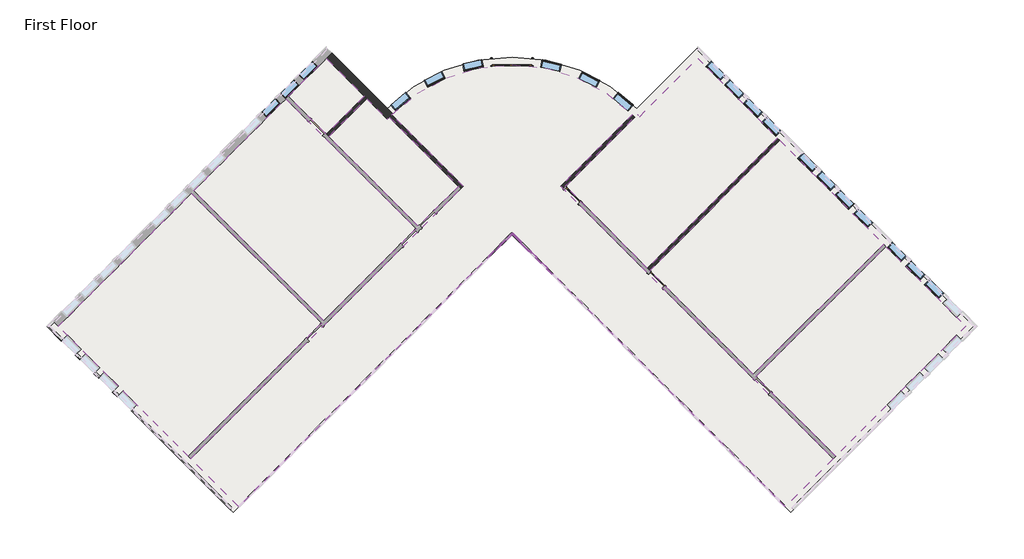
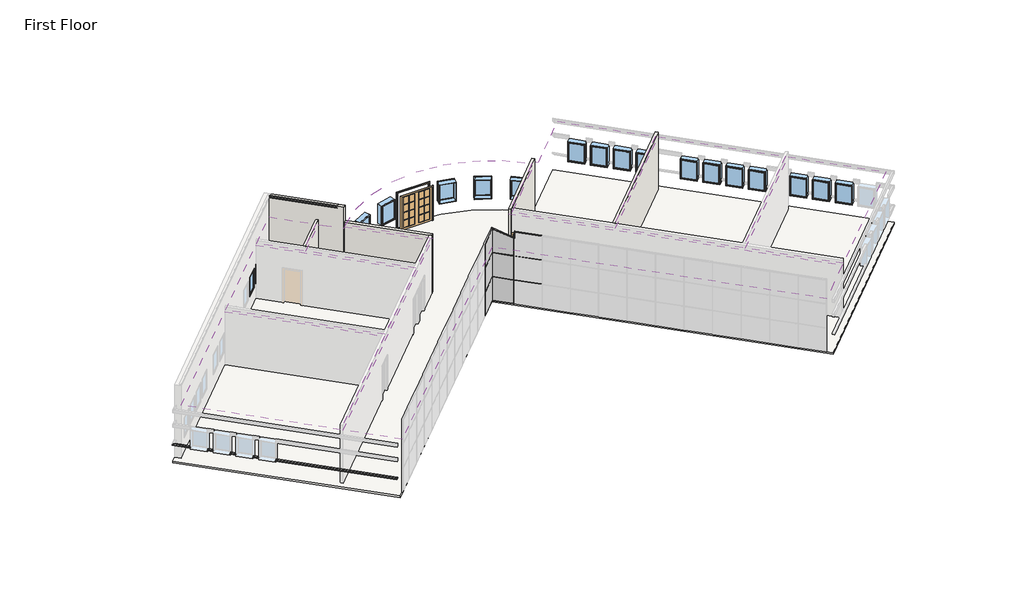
# One storey, part 4 of 5: 20 windows, 19 members, 8 coverings, 6 plates, 5 walls, 3 doors, 1 proxy, 1 slab.
"""IFC4 building model written with IfcOpenShell, lengths in millimetres."""

from ifc_helpers import new_model, si_unit, point, frame, frame_2d, origin, origin_with_axes, place, context, project, spatial, polyline, circle_curve, ellipse_curve, trimmed, segment, composite_curve, outline, extrude, faceted_brep, transform, mapped, element, save
from ifc_brep_helpers import plane_surface, cylinder_surface, revolved_surface, advanced_brep
from components import door_0a477ef8, door_5f5b55da, member_155beb68, member_42be4715, member_b8a5b5c0, member_bd80eb51, member_a3731390, member_b87a50da, member_beb33b19, member_76f0c52a, member_6675e4ca, member_9574b3de, member_b73a8a31, member_4ed907bf, system_panel_glazed_f8555db4, system_panel_glazed_d4009c89, system_panel_glazed_b4114ee2, system_panel_glazed_dc791129, system_panel_solid_99f695d0, system_panel_solid_3576f13f, window_15c49d37, window_0e2fc6ce

model = new_model("IFC4")

# Units and contexts
model_context = context("Model", 3, world=origin())
ifc_project = project(units=[si_unit("LENGTHUNIT", "METRE", prefix="MILLI")], contexts=[model_context])

# Site, building, storey
site = spatial("IfcSite", under=ifc_project)
building = spatial("IfcBuilding", under=site)
storey = spatial("IfcBuildingStorey", under=building, Name="First Floor", Elevation=0.0)

# Proxy
placement = place(None, origin())
element("IfcBuildingElementProxy", 1, Name="Wall Sweeps", at=placement, inside=storey, context=model_context, shape_type="Brep", body=[
    faceted_brep([(-15859.0913754, -9789.3274758, 1085.85), (-15924.1982323, -9854.4343326, 1085.85), (-15948.8939367, -9879.130037, 1041.4), (-15948.8939367, -9879.130037, 1016.0), (-15924.1982323, -9854.4343326, 1016.0), (-15859.0913754, -9789.3274758, 1016.0), (-20459.2275735, -5189.1912777, 1085.85), (-20459.2275735, -5189.1912777, 1016.0), (-20524.3344303, -5254.2981346, 1016.0), (-20549.0301347, -5278.993839, 1016.0), (-20549.0301347, -5278.993839, 1041.4), (-20524.3344303, -5254.2981346, 1085.85)], [[[0, 1, 2, 3, 4, 5]], [[6, 7, 8, 9, 10, 11]], [[1, 0, 6, 11]], [[2, 1, 11, 10]], [[3, 2, 10, 9]], [[5, 4, 3, 9, 8, 7]], [[0, 5, 7, 6]]]),
    faceted_brep([(-21105.8060142, -4542.612837, 1085.85), (-21170.9128711, -4607.7196939, 1085.85), (-21195.6085754, -4632.4153982, 1041.4), (-21195.6085754, -4632.4153982, 1016.0), (-21170.9128711, -4607.7196939, 1016.0), (-21105.8060142, -4542.612837, 1016.0), (-21321.3321611, -4327.0866901, 1085.85), (-21321.3321611, -4327.0866901, 1016.0), (-21386.439018, -4392.193547, 1016.0), (-21411.1347223, -4416.8892513, 1016.0), (-21411.1347223, -4416.8892513, 1041.4), (-21386.439018, -4392.193547, 1085.85)], [[[0, 1, 2, 3, 4, 5]], [[6, 7, 8, 9, 10, 11]], [[1, 0, 6, 11]], [[2, 1, 11, 10]], [[3, 2, 10, 9]], [[5, 4, 3, 9, 8, 7]], [[0, 5, 7, 6]]]),
    faceted_brep([(-21967.9106018, -3680.5082494, 1085.85), (-22033.0174587, -3745.6151063, 1085.85), (-22057.713163, -3770.3108106, 1041.4), (-22057.713163, -3770.3108106, 1016.0), (-22033.0174587, -3745.6151063, 1016.0), (-21967.9106018, -3680.5082494, 1016.0), (-22183.4367487, -3464.9821025, 1085.85), (-22183.4367487, -3464.9821025, 1016.0), (-22248.5436056, -3530.0889594, 1016.0), (-22273.2393099, -3554.7846637, 1016.0), (-22273.2393099, -3554.7846637, 1041.4), (-22248.5436056, -3530.0889594, 1085.85)], [[[0, 1, 2, 3, 4, 5]], [[6, 7, 8, 9, 10, 11]], [[1, 0, 6, 11]], [[2, 1, 11, 10]], [[3, 2, 10, 9]], [[5, 4, 3, 9, 8, 7]], [[0, 5, 7, 6]]]),
    faceted_brep([(-22830.0151894, -2818.4036618, 1085.85), (-22895.1220463, -2883.5105187, 1085.85), (-22919.8177506, -2908.206223, 1041.4), (-22919.8177506, -2908.206223, 1016.0), (-22895.1220463, -2883.5105187, 1016.0), (-22830.0151894, -2818.4036618, 1016.0), (-23045.5413363, -2602.8775149, 1085.85), (-23045.5413363, -2602.8775149, 1016.0), (-23110.6481932, -2667.9843718, 1016.0), (-23135.3438975, -2692.6800761, 1016.0), (-23135.3438975, -2692.6800761, 1041.4), (-23110.6481932, -2667.9843718, 1085.85)], [[[0, 1, 2, 3, 4, 5]], [[6, 7, 8, 9, 10, 11]], [[1, 0, 6, 11]], [[2, 1, 11, 10]], [[3, 2, 10, 9]], [[5, 4, 3, 9, 8, 7]], [[0, 5, 7, 6]]]),
    faceted_brep([(-23692.119777, -1956.2990742, 1085.85), (-23757.2266339, -2021.405931, 1085.85), (-23781.9223383, -2046.1016354, 1041.4), (-23781.9223383, -2046.1016354, 1016.0), (-23757.2266339, -2021.405931, 1016.0), (-23692.119777, -1956.2990742, 1016.0), (-24290.4293411, -1357.9895101, 1085.85), (-24290.4293411, -1357.9895101, 1016.0), (-24470.0344635, -1357.9895101, 1016.0), (-24470.0344635, -1357.9895101, 1041.4), (-24420.6430549, -1357.9895101, 1085.85)], [[[0, 1, 2, 3, 4, 5]], [[6, 7, 8, 9, 10]], [[1, 0, 6, 10]], [[2, 1, 10, 9]], [[3, 2, 9, 8]], [[5, 4, 3, 8, 7]], [[0, 5, 7, 6]]]),
])

# Coverings
element("IfcCovering", 2, ObjectType="2' x 2' ACT System", at=placement, inside=storey, context=model_context, shape_type="SweptSolid", body=[
    extrude(outline(polyline([(-11706.7276692, -1216.4326939), (-17885.2616628, -7394.9666875), (-23922.2388402, -1357.9895101), (-17743.7048466, 4820.5444835), (-11706.7276692, -1216.4326939)])), frame((0.0, 0.0, 3352.8), z_axis=(0.0, 0.0, 1.0), x_axis=(1.0, 0.0, 0.0)), (0.0, 0.0, 1.0), 57.15),
])
element("IfcCovering", 3, ObjectType="2' x 2' ACT System", at=placement, inside=storey, context=model_context, shape_type="SweptSolid", body=[
    extrude(outline(polyline([(-17633.6967091, 4930.552621), (-13359.2125777, 9205.0367523), (-7322.2354004, 3168.0595749), (-11596.7195317, -1106.4245564), (-17633.6967091, 4930.552621)])), frame((0.0, 0.0, 3352.8), z_axis=(0.0, 0.0, 1.0), x_axis=(1.0, 0.0, 0.0)), (0.0, 0.0, 1.0), 57.15),
])
element("IfcCovering", 4, ObjectType="2' x 2' ACT System", at=placement, inside=storey, context=model_context, shape_type="SweptSolid", body=[
    extrude(outline(polyline([(-13249.2044403, 9315.0448898), (-11489.0742405, 11075.1750895), (-9728.9440408, 9315.0448898), (-11489.0742405, 7554.9146901), (-13249.2044403, 9315.0448898)])), frame((0.0, 0.0, 3352.8), z_axis=(0.0, 0.0, 1.0), x_axis=(1.0, 0.0, 0.0)), (0.0, 0.0, 1.0), 57.15),
])
element("IfcCovering", 5, ObjectType="2' x 2' ACT System", at=placement, inside=storey, context=model_context, shape_type="SweptSolid", body=[
    extrude(outline(composite_curve([segment(polyline([(-11379.066103, 7444.9065526), (-9618.9359033, 9205.0367523), (-8658.0122729, 8244.1131219)]), True, "CONTINUOUS"), segment(trimmed(circle_curve(frame_2d((-2868.0283643, 2903.1420194)), 7877.175), [point((-8658.0122729, 8244.1131219))], [point((-8557.7157352, 8350.8336041))], False, "CARTESIAN"), True, "CONTINUOUS"), segment(polyline([(-8557.7157352, 8350.8336041), (-5348.5885532, 5141.7064221), (-7212.2272629, 3278.0677124), (-11379.066103, 7444.9065526)]), True, "CONTINUOUS")], self_intersect=False)), frame((0.0, 0.0, 3352.8), z_axis=(0.0, 0.0, 1.0), x_axis=(1.0, 0.0, 0.0)), (0.0, 0.0, 1.0), 57.15),
])
element("IfcCovering", 6, ObjectType="2' x 2' ACT System", at=placement, inside=storey, context=model_context, shape_type="SweptSolid", body=[
    extrude(outline(composite_curve([segment(polyline([(-607.4844504, 5141.7064221), (12039.1967967, -7504.974825), (9814.3383427, -9729.833279), (-2868.0283643, 2952.533428), (-15550.3950713, -9729.833279), (-17775.2535253, -7504.974825), (-5128.5722782, 5141.7064221), (-8449.0111375, 8462.1452813)]), True, "CONTINUOUS"), segment(trimmed(circle_curve(frame_2d((-2868.0283643, 2903.1420194)), 7877.175), [point((-8449.0111375, 8462.1452813))], [point((2712.9544089, 8462.1452813))], False, "CARTESIAN"), True, "CONTINUOUS"), segment(polyline([(2712.9544089, 8462.1452813), (-607.4844504, 5141.7064221)]), True, "CONTINUOUS")], self_intersect=False)), frame((0.0, 0.0, 3352.8), z_axis=(0.0, 0.0, 1.0), x_axis=(1.0, 0.0, 0.0)), (0.0, 0.0, 1.0), 57.15),
])
element("IfcCovering", 7, ObjectType="2' x 2' ACT System", at=placement, inside=storey, context=model_context, shape_type="SweptSolid", body=[
    extrude(outline(polyline([(2947.192033, 8476.3666305), (3050.2065213, 8372.3640989), (5753.0175119, 11075.1750895), (9452.8830338, 7375.3095676), (3415.9058564, 1338.3323903), (-387.4681754, 5141.7064221), (2947.192033, 8476.3666305)])), frame((0.0, 0.0, 3352.8), z_axis=(0.0, 0.0, 1.0), x_axis=(1.0, 0.0, 0.0)), (0.0, 0.0, 1.0), 57.15),
])
element("IfcCovering", 8, ObjectType="2' x 2' ACT System", at=placement, inside=storey, context=model_context, shape_type="SweptSolid", body=[
    extrude(outline(polyline([(3525.9139939, 1228.3242528), (9562.8911713, 7265.3014302), (14376.3084522, 2451.8841493), (8339.3312748, -3585.0930281), (3525.9139939, 1228.3242528)])), frame((0.0, 0.0, 3352.8), z_axis=(0.0, 0.0, 1.0), x_axis=(1.0, 0.0, 0.0)), (0.0, 0.0, 1.0), 57.15),
])
element("IfcCovering", 9, ObjectType="2' x 2' ACT System", at=placement, inside=storey, context=model_context, shape_type="SweptSolid", body=[
    extrude(outline(polyline([(8449.3394123, -3695.1011656), (14486.3165897, 2341.8760118), (18186.1821115, -1357.9895101), (12149.2049342, -7394.9666875), (8449.3394123, -3695.1011656)])), frame((0.0, 0.0, 3352.8), z_axis=(0.0, 0.0, 1.0), x_axis=(1.0, 0.0, 0.0)), (0.0, 0.0, 1.0), 57.15),
])

# Doors
door_shape = door_0a477ef8(model_context)
element("IfcDoor", 10, ObjectType="Double-Glass 2 : 72\" x 84\"", at=placement, inside=storey, context=model_context, shape_type="MappedRepresentation", body=[
    mapped(door_shape, transform((-2868.7603243, 10905.5717204, 0.0), x_axis=(-0.9999999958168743, -9.146721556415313e-05, 0.0), y_axis=(9.146721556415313e-05, -0.9999999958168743, 0.0), z_axis=(0.0, 0.0, 1.0))),
])
door_2_shape = door_5f5b55da(model_context)
element("IfcDoor", 11, ObjectType="Single-Glass 1 : 36\" x 84\"", at=placement, inside=storey, context=model_context, shape_type="MappedRepresentation", body=[
    mapped(door_2_shape, transform((-66.4240191, 4710.6541283, 0.0), x_axis=(-0.7071067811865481, 0.7071067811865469, 0.0), y_axis=(-0.7071067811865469, -0.7071067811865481, 0.0), z_axis=(0.0, 0.0, 1.0))),
])
element("IfcDoor", 12, ObjectType="Single-Glass 1 : 36\" x 84\"", at=placement, inside=storey, context=model_context, shape_type="MappedRepresentation", body=[
    mapped(door_2_shape, transform((3846.9581502, 797.271959, 0.0), x_axis=(-0.7071067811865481, 0.7071067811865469, 0.0), y_axis=(-0.7071067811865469, -0.7071067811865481, 0.0), z_axis=(0.0, 0.0, 1.0))),
])

# Members
member_shape = member_155beb68(model_context)
element("IfcMember", 13, ObjectType="Rectangular Mullion : 1.5\" x 2.5\" Rectangular", at=placement, inside=storey, context=model_context, shape_type="MappedRepresentation", body=[
    mapped(member_shape, transform((-2039.5997371, 2124.1048009, 1524.0), x_axis=(-0.7071067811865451, 0.70710678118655, 0.0), y_axis=(0.70710678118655, 0.7071067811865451, 0.0), z_axis=(0.0, 0.0, -1.0))),
])
element("IfcMember", 14, ObjectType="Rectangular Mullion : 1.5\" x 2.5\" Rectangular", at=placement, inside=storey, context=model_context, shape_type="MappedRepresentation", body=[
    mapped(member_shape, transform((-2039.5997371, 2124.1048009, 0.0), x_axis=(-0.7071067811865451, 0.70710678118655, 0.0), y_axis=(0.70710678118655, 0.7071067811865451, 0.0), z_axis=(0.0, 0.0, -1.0))),
])
member_2_shape = member_42be4715(model_context)
element("IfcMember", 15, ObjectType="Rectangular Mullion : 1.5\" x 2.5\" Rectangular", at=placement, inside=storey, context=model_context, shape_type="MappedRepresentation", body=[
    mapped(member_2_shape, transform((-2026.129353, 2110.6344167, 3048.0), x_axis=(0.0, 0.0, 1.0), y_axis=(0.7071067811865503, 0.7071067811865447, 0.0), z_axis=(-0.7071067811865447, 0.7071067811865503, 0.0))),
])
element("IfcMember", 16, ObjectType="Rectangular Mullion : 1.5\" x 2.5\" Rectangular", at=placement, inside=storey, context=model_context, shape_type="MappedRepresentation", body=[
    mapped(member_2_shape, transform((-2026.129353, 2110.6344167, 1524.0), x_axis=(0.0, 0.0, 1.0), y_axis=(0.7071067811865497, 0.7071067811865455, 0.0), z_axis=(-0.7071067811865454, 0.7071067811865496, 0.0))),
])
member_3_shape = member_b8a5b5c0(model_context)
element("IfcMember", 17, ObjectType="Rectangular Mullion : 1.5\" x 2.5\" Rectangular", at=placement, inside=storey, context=model_context, shape_type="MappedRepresentation", body=[
    mapped(member_3_shape, transform((-2894.9691327, 2925.5926597, 0.0), x_axis=(0.0, 0.0, -1.0), y_axis=(-0.7071067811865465, 0.7071067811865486, 0.0), z_axis=(0.7071067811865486, 0.7071067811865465, 0.0))),
])
member_4_shape = member_bd80eb51(model_context)
element("IfcMember", 18, ObjectType="Rectangular Mullion : 1.5\" x 2.5\" Rectangular", at=placement, inside=storey, context=model_context, shape_type="MappedRepresentation", body=[
    mapped(member_4_shape, transform((-2053.0701213, 2137.575185, 0.0), x_axis=(0.0, 0.0, -1.0), y_axis=(0.7071067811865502, 0.7071067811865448, 0.0), z_axis=(0.7071067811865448, -0.7071067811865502, 0.0))),
])
member_5_shape = member_a3731390(model_context)
element("IfcMember", 19, ObjectType="Rectangular Mullion : 1.5\" x 2.5\" Rectangular", at=placement, inside=storey, context=model_context, shape_type="MappedRepresentation", body=[
    mapped(member_5_shape, transform((-2841.0875959, 2925.5926597, 3048.0), x_axis=(0.0, 0.0, 1.0), y_axis=(0.7071067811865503, 0.7071067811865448, 0.0), z_axis=(-0.7071067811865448, 0.7071067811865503, 0.0))),
])
element("IfcMember", 20, ObjectType="Rectangular Mullion : 1.5\" x 2.5\" Rectangular", at=placement, inside=storey, context=model_context, shape_type="MappedRepresentation", body=[
    mapped(member_5_shape, transform((-2841.0875959, 2925.5926597, 1524.0), x_axis=(0.0, 0.0, 1.0), y_axis=(0.7071067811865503, 0.7071067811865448, 0.0), z_axis=(-0.7071067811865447, 0.7071067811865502, 0.0))),
])
member_6_shape = member_b87a50da(model_context)
element("IfcMember", 21, ObjectType="Rectangular Mullion : 1.5\" x 2.5\" Rectangular", at=placement, inside=storey, context=model_context, shape_type="MappedRepresentation", body=[
    mapped(member_6_shape, transform((-2868.0283643, 2952.533428, 1524.0), x_axis=(0.7071067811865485, 0.7071067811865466, 0.0), y_axis=(-0.7071067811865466, 0.7071067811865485, 0.0), z_axis=(0.0, 0.0, 1.0))),
])
element("IfcMember", 22, ObjectType="Rectangular Mullion : 1.5\" x 2.5\" Rectangular", at=placement, inside=storey, context=model_context, shape_type="MappedRepresentation", body=[
    mapped(member_6_shape, transform((-2868.0283643, 2952.533428, 3048.0), x_axis=(0.7071067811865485, 0.7071067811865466, 0.0), y_axis=(-0.7071067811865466, 0.7071067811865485, 0.0), z_axis=(0.0, 0.0, 1.0))),
])
element("IfcMember", 23, ObjectType="Rectangular Mullion : 1.5\" x 2.5\" Rectangular", at=placement, inside=storey, context=model_context, shape_type="MappedRepresentation", body=[
    mapped(member_6_shape, transform((-2868.0283643, 2952.533428, 4572.0), x_axis=(0.7071067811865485, 0.7071067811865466, 0.0), y_axis=(-0.7071067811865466, 0.7071067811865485, 0.0), z_axis=(0.0, 0.0, 1.0))),
])
element("IfcMember", 24, ObjectType="Rectangular Mullion : 1.5\" x 2.5\" Rectangular", at=placement, inside=storey, context=model_context, shape_type="MappedRepresentation", body=[
    mapped(member_6_shape, transform((-2868.0283643, 2952.533428, 0.0), x_axis=(-0.7071067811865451, 0.70710678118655, 0.0), y_axis=(0.70710678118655, 0.7071067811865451, 0.0), z_axis=(0.0, 0.0, -1.0))),
])
element("IfcMember", 25, ObjectType="Rectangular Mullion : 1.5\" x 2.5\" Rectangular", at=placement, inside=storey, context=model_context, shape_type="MappedRepresentation", body=[
    mapped(member_6_shape, transform((-2868.0283643, 2952.533428, 1524.0), x_axis=(-0.7071067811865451, 0.70710678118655, 0.0), y_axis=(0.70710678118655, 0.7071067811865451, 0.0), z_axis=(0.0, 0.0, -1.0))),
])
member_7_shape = member_beb33b19(model_context)
element("IfcMember", 26, ObjectType="Rectangular Mullion : 1.5\" x 2.5\" Rectangular", at=placement, inside=storey, context=model_context, shape_type="MappedRepresentation", body=[
    mapped(member_7_shape, transform((-2039.5997371, 2124.1048009, 4181.475), x_axis=(0.22360679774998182, -0.22360679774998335, 0.9486832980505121), y_axis=(0.7071067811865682, 0.7071067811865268, 0.0), z_axis=(-0.670820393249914, 0.6708203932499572, 0.316227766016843))),
])
member_8_shape = member_76f0c52a(model_context)
element("IfcMember", 27, ObjectType="Rectangular Mullion : 1.5\" x 2.5\" Rectangular", at=placement, inside=storey, context=model_context, shape_type="MappedRepresentation", body=[
    mapped(member_8_shape, transform((-2868.0283643, 2952.533428, 4572.0), x_axis=(0.22360679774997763, -0.22360679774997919, 0.9486832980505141), y_axis=(0.7071067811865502, 0.7071067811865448, 0.0), z_axis=(-0.6708203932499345, 0.6708203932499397, 0.3162277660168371))),
])
member_9_shape = member_6675e4ca(model_context)
element("IfcMember", 28, ObjectType="Rectangular Mullion : 1.5\" x 2.5\" Rectangular", at=placement, inside=storey, context=model_context, shape_type="MappedRepresentation", body=[
    mapped(member_9_shape, transform((-2005.9237767, 2090.4288404, 4165.6), x_axis=(-0.7071067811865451, 0.70710678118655, 0.0), y_axis=(0.70710678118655, 0.7071067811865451, 0.0), z_axis=(0.0, 0.0, -1.0))),
])
member_10_shape = member_9574b3de(model_context)
element("IfcMember", 29, ObjectType="Rectangular Mullion : 1.5\" x 2.5\" Rectangular", at=placement, inside=storey, context=model_context, shape_type="MappedRepresentation", body=[
    mapped(member_10_shape, transform((-1978.9830083, 2063.488072, 4572.0), x_axis=(0.0, 0.0, 1.0), y_axis=(0.707106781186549, 0.7071067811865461, 0.0), z_axis=(-0.707106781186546, 0.7071067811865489, 0.0))),
])
member_11_shape = member_b73a8a31(model_context)
element("IfcMember", 30, ObjectType="Rectangular Mullion : 1.5\" x 2.5\" Rectangular", at=placement, inside=storey, context=model_context, shape_type="MappedRepresentation", body=[
    mapped(member_11_shape, transform((-2039.5997371, 2124.1048009, 3048.0), x_axis=(-0.7071067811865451, 0.70710678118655, 0.0), y_axis=(0.70710678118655, 0.7071067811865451, 0.0), z_axis=(0.0, 0.0, -1.0))),
])
member_12_shape = member_4ed907bf(model_context)
element("IfcMember", 31, ObjectType="Rectangular Mullion : 1.5\" x 2.5\" Rectangular", at=placement, inside=storey, context=model_context, shape_type="MappedRepresentation", body=[
    mapped(member_12_shape, transform((-2868.0283643, 2952.533428, 3048.0), x_axis=(-0.7071067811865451, 0.70710678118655, 0.0), y_axis=(0.70710678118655, 0.7071067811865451, 0.0), z_axis=(0.0, 0.0, -1.0))),
])

# Plates
system_panel_glazed_shape = system_panel_glazed_f8555db4(model_context)
element("IfcPlate", 32, ObjectType="System Panel : Glazed", at=placement, inside=storey, context=model_context, shape_type="MappedRepresentation", body=[
    mapped(system_panel_glazed_shape, transform((-3413.5789237, 2406.9828687, 38.1), x_axis=(-0.7071067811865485, -0.7071067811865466, 0.0), y_axis=(0.7071067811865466, -0.7071067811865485, 0.0), z_axis=(0.0, 0.0, 1.0))),
])
system_panel_glazed_2_shape = system_panel_glazed_d4009c89(model_context)
element("IfcPlate", 33, ObjectType="System Panel : Glazed", at=placement, inside=storey, context=model_context, shape_type="MappedRepresentation", body=[
    mapped(system_panel_glazed_2_shape, transform((-3413.5789237, 2406.9828687, 1543.05), x_axis=(-0.7071067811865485, -0.7071067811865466, 0.0), y_axis=(0.7071067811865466, -0.7071067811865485, 0.0), z_axis=(0.0, 0.0, 1.0))),
])
system_panel_glazed_3_shape = system_panel_glazed_b4114ee2(model_context)
element("IfcPlate", 34, ObjectType="System Panel : Glazed", at=placement, inside=storey, context=model_context, shape_type="MappedRepresentation", body=[
    mapped(system_panel_glazed_3_shape, transform((-2447.0788586, 2531.5839223, 38.1), x_axis=(-0.7071067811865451, 0.70710678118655, 0.0), y_axis=(-0.70710678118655, -0.7071067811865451, 0.0), z_axis=(0.0, 0.0, 1.0))),
])
system_panel_glazed_4_shape = system_panel_glazed_dc791129(model_context)
element("IfcPlate", 35, ObjectType="System Panel : Glazed", at=placement, inside=storey, context=model_context, shape_type="MappedRepresentation", body=[
    mapped(system_panel_glazed_4_shape, transform((-2447.0788586, 2531.5839223, 1543.05), x_axis=(-0.7071067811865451, 0.70710678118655, 0.0), y_axis=(-0.70710678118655, -0.7071067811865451, 0.0), z_axis=(0.0, 0.0, 1.0))),
])
system_panel_solid_shape = system_panel_solid_99f695d0(model_context)
element("IfcPlate", 36, ObjectType="System Panel : Solid", at=placement, inside=storey, context=model_context, shape_type="MappedRepresentation", body=[
    mapped(system_panel_solid_shape, transform((-3413.5789237, 2406.9828687, 3067.05), x_axis=(-0.7071067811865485, -0.7071067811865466, 0.0), y_axis=(0.7071067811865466, -0.7071067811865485, 0.0), z_axis=(0.0, 0.0, 1.0))),
])
system_panel_solid_2_shape = system_panel_solid_3576f13f(model_context)
element("IfcPlate", 37, ObjectType="System Panel : Solid", at=placement, inside=storey, context=model_context, shape_type="MappedRepresentation", body=[
    mapped(system_panel_solid_2_shape, transform((-2447.0788586, 2531.5839223, 3067.05), x_axis=(-0.7071067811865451, 0.70710678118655, 0.0), y_axis=(-0.70710678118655, -0.7071067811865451, 0.0), z_axis=(0.0, 0.0, 1.0))),
])

# Slab
element("IfcSlab", 38, ObjectType="4\" Concrete Slab", at=placement, inside=storey, context=model_context, shape_type="SweptSolid", body=[
    extrude(outline(composite_curve([segment(polyline([(2926.4294954, 8746.9912878), (5753.0175119, 11573.5793042), (18684.5863263, -1357.9895101), (10063.54045, -9979.0353863), (-2868.0283643, 2952.533428), (-15799.5971786, -9979.0353863), (-24420.6430549, -1357.9895101), (-11489.0742405, 11573.5793042), (-8662.486224, 8746.9912878)]), True, "CONTINUOUS"), segment(trimmed(circle_curve(frame_2d((-2868.0283643, 2903.1420194)), 8229.6), [point((-8662.486224, 8746.9912878))], [point((2926.4294954, 8746.9912878))], False, "CARTESIAN"), True, "CONTINUOUS")], self_intersect=False)), frame((0.0, 0.0, -101.6), z_axis=(0.0, 0.0, 1.0), x_axis=(1.0, 0.0, 0.0)), (0.0, 0.0, 1.0), 101.6),
])

# Walls
element("IfcWall", 39, ObjectType="Exterior - Split Face and CMU on Mtl. Stud", at=placement, inside=storey, context=model_context, shape_type="AdvancedBrep", body=[
    advanced_brep(
    [(-11489.0742405, 11075.1750895, 0.0), (-9728.9440408, 9315.0448898, 0.0), (-9618.9359033, 9205.0367523, 0.0), (-8658.0122729, 8244.1131219, 0.0), (-8658.0122729, 8244.1131219, 4689.475), (-11489.0742405, 11075.1750895, 4689.475), (-11489.0742405, 11075.1750895, 4639.3965909), (-8911.6883314, 8497.7891804, 4639.3965909), (-8911.6883314, 8497.7891804, 4572.0), (-11489.0742405, 11075.1750895, 4572.0), (-8413.2817722, 8497.7868359, 4572.0), (-8413.2817722, 8497.7868359, 0.0), (-8662.486224, 8746.9912878, 0.0), (-11239.8721332, 11324.3771969, 0.0), (-11239.8721332, 11324.3771969, 1016.0), (-8662.486224, 8746.9912878, 1016.0), (-8597.3787742, 8681.8838379, 1016.0), (-8597.3787742, 8681.8838379, 1085.85), (-8662.486224, 8746.9912878, 1085.85), (-11239.8721332, 11324.3771969, 1085.85), (-11239.8721332, 11324.3771969, 2133.6), (-8662.486224, 8746.9912878, 2133.6), (-8597.3787742, 8681.8838379, 2133.6), (-8597.3787742, 8681.8838379, 2336.8), (-8662.486224, 8746.9912878, 2336.8), (-11239.8721332, 11324.3771969, 2336.8), (-11239.8721332, 11324.3771969, 3048.0), (-8662.486224, 8746.9912878, 3048.0), (-8597.3787742, 8681.8838379, 3048.0), (-8597.3787742, 8681.8838379, 3251.2), (-8662.486224, 8746.9912878, 3251.2), (-11239.8721332, 11324.3771969, 3251.2), (-11239.8721332, 11324.3771969, 4572.0), (-8662.486224, 8746.9912878, 4572.0), (-8557.713594, 8350.8358404, 0.0), (-8478.2967797, 8432.5881297, 0.0), (-8449.0111375, 8462.1452813, 0.0), (-11304.9789901, 11259.27034, 0.0), (-11304.9789901, 11259.27034, 3251.2), (-11304.9789901, 11259.27034, 3048.0), (-11304.9789901, 11259.27034, 2336.8), (-11304.9789901, 11259.27034, 2133.6), (-11304.9789901, 11259.27034, 1085.85), (-11304.9789901, 11259.27034, 1016.0), (-11413.683542, 11150.5657881, 4653.9354839), (-8836.2976328, 8573.179879, 4653.9354839), (-8662.3967205, 8616.6880705, 1085.85), (-8662.3967205, 8616.6880705, 1016.0), (-8662.3967205, 8616.6880705, 2336.8), (-8662.3967205, 8616.6880705, 2133.6), (-8662.3967205, 8616.6880705, 3251.2), (-8662.3967205, 8616.6880705, 3048.0)],
    [
        (0, 1),
        (1, 2),
        (2, 3),
        (3, 4),
        (4, 5),
        (5, 6),
        (6, 7),
        (7, 8),
        (8, 9),
        (9, 0),
        (10, 11),
        (11, 12),
        (12, 13),
        (13, 14),
        (14, 15),
        (15, 16),
        (16, 17),
        (17, 18),
        (18, 19),
        (19, 20),
        (20, 21),
        (21, 22),
        (22, 23),
        (23, 24),
        (24, 25),
        (25, 26),
        (26, 27),
        (27, 28),
        (28, 29),
        (29, 30),
        (30, 31),
        (31, 32),
        (32, 33),
        (33, 10),
        (3, 34, circle_curve(frame((-2868.0283643, 2903.1420194, 0.0), z_axis=(0.0, 0.0, -1.0), x_axis=(1.0, 0.0, 0.0)), 7877.175)),
        (34, 35, circle_curve(frame((-2868.0283643, 2903.1420194, 0.0), z_axis=(0.0, 0.0, -1.0), x_axis=(1.0, 0.0, 0.0)), 7877.175)),
        (35, 36, circle_curve(frame((-2868.0283643, 2903.1420194, 0.0), z_axis=(0.0, 0.0, -1.0), x_axis=(1.0, 0.0, 0.0)), 7877.175)),
        (36, 11, circle_curve(frame((-2868.0283643, 2903.1420194, 0.0), z_axis=(0.0, 0.0, -1.0), x_axis=(1.0, 0.0, 0.0)), 7877.175)),
        (10, 4, ellipse_curve(frame((-2868.0283643, 2903.1420194, 4583.6416667), z_axis=(0.2236067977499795, 0.22360679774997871, 0.9486832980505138), x_axis=(0.6708203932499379, 0.6708203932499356, -0.31622776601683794)), 8303.2715092, 7877.175)),
        (37, 0),
        (9, 32),
        (31, 38),
        (38, 39),
        (39, 26),
        (25, 40),
        (40, 41),
        (41, 20),
        (19, 42),
        (42, 43),
        (43, 14),
        (13, 37),
        (5, 44),
        (44, 6),
        (33, 45),
        (45, 44),
        (37, 35),
        (46, 47),
        (47, 43),
        (42, 46),
        (17, 46, circle_curve(frame((-2868.0283643, 2903.1420194, 1085.85), z_axis=(0.0, 0.0, 1.0), x_axis=(-0.7040995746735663, 0.7101012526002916, 0.0)), 8137.525)),
        (47, 16, circle_curve(frame((-2868.0283643, 2903.1420194, 1016.0), z_axis=(0.0, 0.0, -1.0), x_axis=(-0.7040995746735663, 0.7101012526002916, 0.0)), 8137.525)),
        (48, 49),
        (49, 41),
        (40, 48),
        (49, 22, circle_curve(frame((-2868.0283643, 2903.1420194, 2133.6), z_axis=(0.0, 0.0, -1.0), x_axis=(-0.7120553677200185, 0.70212331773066, 0.0)), 8137.525)),
        (48, 23, circle_curve(frame((-2868.0283643, 2903.1420194, 2336.8), z_axis=(0.0, 0.0, -1.0), x_axis=(-0.7120553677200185, 0.70212331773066, 0.0)), 8137.525)),
        (50, 51),
        (51, 39),
        (38, 50),
        (51, 28, circle_curve(frame((-2868.0283643, 2903.1420194, 3048.0), z_axis=(0.0, 0.0, -1.0), x_axis=(-0.7120553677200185, 0.70212331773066, 0.0)), 8137.525)),
        (50, 29, circle_curve(frame((-2868.0283643, 2903.1420194, 3251.2), z_axis=(0.0, 0.0, -1.0), x_axis=(-0.7120553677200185, 0.70212331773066, 0.0)), 8137.525)),
        (8, 33),
        (7, 45),
    ],
    [
        plane_surface(frame((-11738.2763479, 11324.3771969, 0.0), z_axis=(-0.7071067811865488, -0.7071067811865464, 0.0), x_axis=(0.7071067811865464, -0.7071067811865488, 0.0))),
        plane_surface(frame((-11489.0742405, 11573.5793042, 0.0), z_axis=(0.7071067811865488, 0.7071067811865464, 0.0), x_axis=(-0.7071067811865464, 0.7071067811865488, 0.0))),
        revolved_surface(polyline([(5009.146635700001, 2903.1420194, 0.0), (5009.146635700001, 2903.1420194, 7209.366666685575)]), (-2868.0283643, 2903.1420194, 0.0), (0.0, 0.0, -1.0)),
        plane_surface(frame((-24171.4409475, -1607.1916175, 0.0), z_axis=(-0.7071067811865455, 0.7071067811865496, 0.0), x_axis=(0.7071067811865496, 0.7071067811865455, 0.0))),
        plane_surface(frame((-1143.8191891, 2952.533428, 4165.6), z_axis=(0.2236067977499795, 0.22360679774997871, 0.9486832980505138), x_axis=(-0.7071067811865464, 0.7071067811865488, 0.0))),
        plane_surface(frame((-11613.6752942, 11199.7761432, 0.0), z_axis=(0.0, 0.0, -1.0000000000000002), x_axis=(0.7071067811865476, 0.7071067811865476, 0.0))),
        plane_surface(frame((0.0, 0.0, 0.0), z_axis=(0.0, 0.0, -1.0), x_axis=(1.0, 0.0, 0.0))),
        plane_surface(frame((-11489.0742405, 11443.3655905, 1016.0), z_axis=(0.7071067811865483, 0.7071067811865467, 0.0), x_axis=(0.7071067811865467, -0.7071067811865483, 0.0))),
        plane_surface(frame((-2868.0283643, 2903.1420194, 1085.85), z_axis=(0.0, 0.0, -1.0), x_axis=(-0.7040995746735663, 0.7101012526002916, 0.0))),
        plane_surface(frame((-2868.0283643, 2903.1420194, 1016.0), z_axis=(0.0, 0.0, 1.0), x_axis=(-0.7040995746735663, 0.7101012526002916, 0.0))),
        cylinder_surface(frame((-2868.0283643, 2903.1420194, 1016.0), z_axis=(0.0, 0.0, -1.0), x_axis=(-0.7040995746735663, 0.7101012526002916, 0.0)), 8137.525),
        plane_surface(frame((-11489.0742405, 11443.3655905, 2133.6), z_axis=(0.7071067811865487, 0.7071067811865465, 0.0), x_axis=(0.7071067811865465, -0.7071067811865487, 0.0))),
        plane_surface(frame((-2868.0283643, 2903.1420194, 2133.6), z_axis=(0.0, 0.0, 1.0), x_axis=(-0.7120553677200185, 0.70212331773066, 0.0))),
        cylinder_surface(frame((-2868.0283643, 2903.1420194, 2133.6), z_axis=(0.0, 0.0, -1.0), x_axis=(-0.7120553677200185, 0.70212331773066, 0.0)), 8137.525),
        plane_surface(frame((-2868.0283643, 2903.1420194, 2336.8), z_axis=(0.0, 0.0, -1.0), x_axis=(-0.7120553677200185, 0.70212331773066, 0.0))),
        plane_surface(frame((-11489.0742405, 11443.3655905, 3048.0), z_axis=(0.7071067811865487, 0.7071067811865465, 0.0), x_axis=(0.7071067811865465, -0.7071067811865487, 0.0))),
        plane_surface(frame((-2868.0283643, 2903.1420194, 3048.0), z_axis=(0.0, 0.0, 1.0), x_axis=(-0.7120553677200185, 0.70212331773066, 0.0))),
        cylinder_surface(frame((-2868.0283643, 2903.1420194, 3048.0), z_axis=(0.0, 0.0, -1.0), x_axis=(-0.7120553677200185, 0.70212331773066, 0.0)), 8137.525),
        plane_surface(frame((-2868.0283643, 2903.1420194, 3251.2), z_axis=(0.0, 0.0, -1.0), x_axis=(-0.7120553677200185, 0.70212331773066, 0.0))),
        plane_surface(frame((-24438.6035671, -1340.0289979, 4572.0), z_axis=(0.0, 0.0, 1.0), x_axis=(0.7071067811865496, 0.7071067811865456, 0.0))),
        plane_surface(frame((-8662.486224, 8746.9912878, 4185.7445793), z_axis=(-0.7071067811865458, 0.7071067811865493, 0.0), x_axis=(0.7071067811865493, 0.7071067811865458, 0.0))),
        plane_surface(frame((-11489.0742405, 11034.763937, 4635.5), z_axis=(0.09553946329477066, 0.09553946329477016, -0.9908301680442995), x_axis=(0.7071067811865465, -0.7071067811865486, 0.0))),
    ],
    [
        (0, [[1, 2, 3, 4, 5, 6, 7, 8, 9, 10]]),
        (1, [[11, 12, 13, 14, 15, 16, 17, 18, 19, 20, 21, 22, 23, 24, 25, 26, 27, 28, 29, 30, 31, 32, 33, 34]]),
        (2, [[-4, 35, 36, 37, 38, -11, 39]]),
        (3, [[40, -10, 41, -32, 42, 43, 44, -26, 45, 46, 47, -20, 48, 49, 50, -14, 51]]),
        (3, [[-6, 52, 53]]),
        (4, [[-5, -39, -34, 54, 55, -52]]),
        (5, [[-3, -2, -1, -40, 56, -36, -35]]),
        (6, [[-51, -13, -12, -38, -37, -56]]),
        (7, [[57, 58, -49, 59]]),
        (8, [[60, -59, -48, -19, -18]]),
        (9, [[-58, 61, -16, -15, -50]]),
        (10, [[-57, -60, -17, -61]]),
        (11, [[62, 63, -46, 64]]),
        (12, [[-63, 65, -22, -21, -47]]),
        (13, [[-62, 66, -23, -65]]),
        (14, [[-66, -64, -45, -25, -24]]),
        (15, [[67, 68, -43, 69]]),
        (16, [[-68, 70, -28, -27, -44]]),
        (17, [[-67, 71, -29, -70]]),
        (18, [[-71, -69, -42, -31, -30]]),
        (19, [[72, -33, -41, -9]]),
        (20, [[73, -54, -72, -8]]),
        (21, [[-73, -7, -53, -55]]),
    ],
),
])
element("IfcWall", 40, ObjectType="Interior - 6 1/8\" Partition (2-hr)", at=placement, inside=storey, context=model_context, shape_type="AdvancedBrep", body=[
    advanced_brep(
    [(-5128.5722782, 5141.7064221, 0.0), (-8449.0111375, 8462.1452813, 0.0), (-8449.0111375, 8462.1452813, 3657.6), (-5128.5722782, 5141.7064221, 3657.6), (-5238.5804157, 5031.6982846, 0.0), (-5238.5804157, 5031.6982846, 3657.6), (-5348.5885532, 5141.7064221, 3657.6), (-8557.7157352, 8350.8336041, 3657.6), (-8557.7157352, 8350.8336041, 0.0), (-5348.5885532, 5141.7064221, 0.0)],
    [
        (0, 1),
        (1, 2),
        (2, 3),
        (3, 0),
        (4, 5),
        (5, 6),
        (6, 7),
        (7, 8),
        (8, 9),
        (9, 4),
        (0, 4),
        (8, 1, circle_curve(frame((-2868.0283643, 2903.1420194, 0.0), z_axis=(0.0, 0.0, -1.0), x_axis=(1.0, 0.0, 0.0)), 7877.175)),
        (2, 7, circle_curve(frame((-2868.0283643, 2903.1420194, 3657.6), z_axis=(0.0, 0.0, 1.0), x_axis=(1.0, 0.0, 0.0)), 7877.175)),
        (5, 3),
    ],
    [
        plane_surface(frame((-5183.576347, 5196.7104908, 0.0), z_axis=(0.7071067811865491, 0.7071067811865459, 0.0), x_axis=(-0.7071067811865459, 0.7071067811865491, 0.0))),
        plane_surface(frame((-5293.5844845, 5086.7023533, 0.0), z_axis=(-0.7071067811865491, -0.7071067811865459, 0.0), x_axis=(0.7071067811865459, -0.7071067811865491, 0.0))),
        plane_surface(frame((-5183.576347, 5196.7104908, 0.0), z_axis=(0.0, 0.0, -1.0), x_axis=(-0.707106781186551, -0.707106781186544, 0.0))),
        plane_surface(frame((-8573.2406241, 8586.374768, 3657.6), z_axis=(0.0, 0.0, 1.0), x_axis=(-0.707106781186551, -0.707106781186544, 0.0))),
        plane_surface(frame((-17899.854579, -7629.5758786, 0.0), z_axis=(0.7071067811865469, -0.7071067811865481, 0.0), x_axis=(0.7071067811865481, 0.7071067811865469, 0.0))),
        cylinder_surface(frame((-2868.0283643, 2903.1420194, 0.0), z_axis=(0.0, 0.0, -1.0), x_axis=(1.0, 0.0, 0.0)), 7877.175),
    ],
    [
        (0, [[1, 2, 3, 4]]),
        (1, [[5, 6, 7, 8, 9, 10]]),
        (2, [[-1, 11, -10, -9, 12]]),
        (3, [[-3, 13, -7, -6, 14]]),
        (4, [[-4, -14, -5, -11]]),
        (5, [[-2, -12, -8, -13]]),
    ],
),
])
element("IfcWall", 41, ObjectType="Interior - 6 1/8\" Partition (2-hr)", at=placement, inside=storey, context=model_context, shape_type="SweptSolid", body=[
    extrude(outline(polyline([(-11489.0742405, 7554.9146901), (-9728.9440408, 9315.0448898), (-9618.9359033, 9205.0367523), (-11379.066103, 7444.9065526), (-11489.0742405, 7554.9146901)])), origin_with_axes(), (0.0, 0.0, 1.0), 3657.6),
])
element("IfcWall", 42, ObjectType="Interior - 6 1/8\" Partition (2-hr)", at=placement, inside=storey, context=model_context, shape_type="AdvancedBrep", body=[
    advanced_brep(
    [(-497.4763129, 5031.6982846, 0.0), (-387.4681754, 5141.7064221, 0.0), (2821.6590066, 8350.8336041, 0.0), (2821.6590066, 8350.8336041, 3657.6), (-387.4681754, 5141.7064221, 3657.6), (-497.4763129, 5031.6982846, 3657.6), (-607.4844504, 5141.7064221, 0.0), (-607.4844504, 5141.7064221, 3657.6), (2712.9544089, 8462.1452813, 3657.6), (2712.9544089, 8462.1452813, 0.0)],
    [
        (0, 1),
        (1, 2),
        (2, 3),
        (3, 4),
        (4, 5),
        (5, 0),
        (6, 7),
        (7, 8),
        (8, 9),
        (9, 6),
        (0, 6),
        (9, 2, circle_curve(frame((-2868.0283643, 2903.1420194, 0.0), z_axis=(0.0, 0.0, -1.0), x_axis=(1.0, 0.0, 0.0)), 7877.175)),
        (3, 8, circle_curve(frame((-2868.0283643, 2903.1420194, 3657.6), z_axis=(0.0, 0.0, 1.0), x_axis=(1.0, 0.0, 0.0)), 7877.175)),
        (7, 5),
    ],
    [
        plane_surface(frame((-442.4722441, 5086.7023533, 0.0), z_axis=(0.7071067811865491, -0.7071067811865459, 0.0), x_axis=(0.7071067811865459, 0.7071067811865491, 0.0))),
        plane_surface(frame((-552.4803816, 5196.7104908, 0.0), z_axis=(-0.7071067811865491, 0.7071067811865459, 0.0), x_axis=(-0.7071067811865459, -0.7071067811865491, 0.0))),
        plane_surface(frame((-442.4722441, 5086.7023533, 0.0), z_axis=(0.0, 0.0, -1.0), x_axis=(-0.707106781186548, 0.7071067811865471, 0.0))),
        plane_surface(frame((2947.192033, 8476.3666305, 3657.6), z_axis=(0.0, 0.0, 1.0000000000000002), x_axis=(-0.7071067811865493, 0.7071067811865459, 0.0))),
        plane_surface(frame((12163.7978503, -7629.5758786, 0.0), z_axis=(-0.7071067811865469, -0.7071067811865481, 0.0), x_axis=(0.7071067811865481, -0.7071067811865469, 0.0))),
        cylinder_surface(frame((-2868.0283643, 2903.1420194, 0.0), z_axis=(0.0, 0.0, -1.0), x_axis=(1.0, 0.0, 0.0)), 7877.175),
    ],
    [
        (0, [[1, 2, 3, 4, 5, 6]]),
        (1, [[7, 8, 9, 10]]),
        (2, [[-2, -1, 11, -10, 12]]),
        (3, [[-5, -4, 13, -8, 14]]),
        (4, [[-6, -14, -7, -11]]),
        (5, [[-3, -12, -9, -13]]),
    ],
),
])
element("IfcWall", 43, ObjectType="Interior - 6 1/8\" Partition (2-hr)", at=placement, inside=storey, context=model_context, shape_type="SweptSolid", body=[
    extrude(outline(polyline([(3415.9058564, 1338.3323903), (9452.8830338, 7375.3095676), (9562.8911713, 7265.3014302), (3525.9139939, 1228.3242528), (3415.9058564, 1338.3323903)])), origin_with_axes(), (0.0, 0.0, 1.0), 3657.6),
])

# Windows
window_shape = window_15c49d37(model_context)
element("IfcWindow", 44, ObjectType="Fixed : 36\" x 48\"", at=placement, inside=storey, context=model_context, shape_type="MappedRepresentation", body=[
    mapped(window_shape, transform((-8066.2237793, 9037.6928325, 0.0), x_axis=(-0.7659856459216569, -0.6428576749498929, 0.0), y_axis=(0.6428576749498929, -0.7659856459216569, 0.0), z_axis=(0.0, 0.0, 1.0))),
])
element("IfcWindow", 45, ObjectType="Fixed : 36\" x 48\"", at=placement, inside=storey, context=model_context, shape_type="MappedRepresentation", body=[
    mapped(window_shape, transform((-4714.6266038, 10728.998151, 0.0), x_axis=(-0.9743494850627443, -0.2250401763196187, 0.0), y_axis=(0.2250401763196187, -0.9743494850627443, 0.0), z_axis=(0.0, 0.0, 1.0))),
])
element("IfcWindow", 46, ObjectType="Fixed : 36\" x 48\"", at=placement, inside=storey, context=model_context, shape_type="MappedRepresentation", body=[
    mapped(window_shape, transform((-6490.5147795, 10081.6893252, 0.0), x_axis=(-0.8948935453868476, -0.4462796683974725, 0.0), y_axis=(0.4462796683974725, -0.8948935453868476, 0.0), z_axis=(0.0, 0.0, 1.0))),
])
element("IfcWindow", 47, ObjectType="Fixed : 36\" x 48\"", at=placement, inside=storey, context=model_context, shape_type="MappedRepresentation", body=[
    mapped(window_shape, transform((6554.2698062, 10523.1249026, 0.0), x_axis=(-0.7071067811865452, 0.7071067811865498, 0.0), y_axis=(-0.7071067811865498, -0.7071067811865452, 0.0), z_axis=(0.0, 0.0, 1.0))),
])
element("IfcWindow", 48, ObjectType="Fixed : 36\" x 48\"", at=placement, inside=storey, context=model_context, shape_type="MappedRepresentation", body=[
    mapped(window_shape, transform((7416.3743938, 9661.020315, 0.0), x_axis=(-0.7071067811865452, 0.7071067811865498, 0.0), y_axis=(-0.7071067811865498, -0.7071067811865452, 0.0), z_axis=(0.0, 0.0, 1.0))),
])
element("IfcWindow", 49, ObjectType="Fixed : 36\" x 48\"", at=placement, inside=storey, context=model_context, shape_type="MappedRepresentation", body=[
    mapped(window_shape, transform((8278.4789814, 8798.9157274, 0.0), x_axis=(-0.7071067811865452, 0.7071067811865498, 0.0), y_axis=(-0.7071067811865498, -0.7071067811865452, 0.0), z_axis=(0.0, 0.0, 1.0))),
])
element("IfcWindow", 50, ObjectType="Fixed : 36\" x 48\"", at=placement, inside=storey, context=model_context, shape_type="MappedRepresentation", body=[
    mapped(window_shape, transform((9140.583569, 7936.8111398, 0.0), x_axis=(-0.7071067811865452, 0.7071067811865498, 0.0), y_axis=(-0.7071067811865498, -0.7071067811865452, 0.0), z_axis=(0.0, 0.0, 1.0))),
])
window_2_shape = window_0e2fc6ce(model_context)
element("IfcWindow", 51, ObjectType="Fixed : 36\" x 48\"", at=placement, inside=storey, context=model_context, shape_type="MappedRepresentation", body=[
    mapped(window_2_shape, transform((-12290.3265348, 10523.1249026, 0.0), x_axis=(0.7071067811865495, 0.7071067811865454, 0.0), y_axis=(-0.7071067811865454, 0.7071067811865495, 0.0), z_axis=(0.0, 0.0, 1.0))),
])
element("IfcWindow", 52, ObjectType="Fixed : 36\" x 48\"", at=placement, inside=storey, context=model_context, shape_type="MappedRepresentation", body=[
    mapped(window_2_shape, transform((-13152.4311224, 9661.020315, 0.0), x_axis=(0.7071067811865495, 0.7071067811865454, 0.0), y_axis=(-0.7071067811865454, 0.7071067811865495, 0.0), z_axis=(0.0, 0.0, 1.0))),
])
element("IfcWindow", 53, ObjectType="Fixed : 36\" x 48\"", at=placement, inside=storey, context=model_context, shape_type="MappedRepresentation", body=[
    mapped(window_2_shape, transform((-14014.53571, 8798.9157274, 0.0), x_axis=(0.7071067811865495, 0.7071067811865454, 0.0), y_axis=(-0.7071067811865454, 0.7071067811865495, 0.0), z_axis=(0.0, 0.0, 1.0))),
])
element("IfcWindow", 54, ObjectType="Fixed : 36\" x 48\"", at=placement, inside=storey, context=model_context, shape_type="MappedRepresentation", body=[
    mapped(window_2_shape, transform((2271.4327875, 9086.2422995, 0.0), x_axis=(-0.765985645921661, 0.642857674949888, 0.0), y_axis=(-0.642857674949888, -0.765985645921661, 0.0), z_axis=(0.0, 0.0, 1.0))),
])
element("IfcWindow", 55, ObjectType="Fixed : 36\" x 48\"", at=placement, inside=storey, context=model_context, shape_type="MappedRepresentation", body=[
    mapped(window_2_shape, transform((-1095.8037333, 10745.5912454, 0.0), x_axis=(-0.9743494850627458, 0.2250401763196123, 0.0), y_axis=(-0.2250401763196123, -0.9743494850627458, 0.0), z_axis=(0.0, 0.0, 1.0))),
])
element("IfcWindow", 56, ObjectType="Fixed : 36\" x 48\"", at=placement, inside=storey, context=model_context, shape_type="MappedRepresentation", body=[
    mapped(window_2_shape, transform((686.0129721, 10115.1861252, 0.0), x_axis=(-0.8948935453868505, 0.44627966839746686, 0.0), y_axis=(-0.44627966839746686, -0.8948935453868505, 0.0), z_axis=(0.0, 0.0, 1.0))),
])
element("IfcWindow", 57, ObjectType="Fixed : 36\" x 48\"", at=placement, inside=storey, context=model_context, shape_type="MappedRepresentation", body=[
    mapped(window_2_shape, transform((16738.115812, 339.2788968, 0.0), x_axis=(0.7071067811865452, -0.7071067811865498, 0.0), y_axis=(0.7071067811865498, 0.7071067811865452, 0.0), z_axis=(0.0, 0.0, 1.0))),
])
element("IfcWindow", 58, ObjectType="Fixed : 36\" x 48\"", at=placement, inside=storey, context=model_context, shape_type="MappedRepresentation", body=[
    mapped(window_2_shape, transform((15876.0112244, 1201.3834844, 0.0), x_axis=(0.7071067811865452, -0.7071067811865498, 0.0), y_axis=(0.7071067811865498, 0.7071067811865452, 0.0), z_axis=(0.0, 0.0, 1.0))),
])
element("IfcWindow", 59, ObjectType="Fixed : 36\" x 48\"", at=placement, inside=storey, context=model_context, shape_type="MappedRepresentation", body=[
    mapped(window_2_shape, transform((15013.9066368, 2063.488072, 0.0), x_axis=(0.7071067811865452, -0.7071067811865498, 0.0), y_axis=(0.7071067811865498, 0.7071067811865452, 0.0), z_axis=(0.0, 0.0, 1.0))),
])
element("IfcWindow", 60, ObjectType="Fixed : 36\" x 48\"", at=placement, inside=storey, context=model_context, shape_type="MappedRepresentation", body=[
    mapped(window_2_shape, transform((13451.8134959, 3625.5812129, 0.0), x_axis=(0.7071067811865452, -0.7071067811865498, 0.0), y_axis=(0.7071067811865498, 0.7071067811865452, 0.0), z_axis=(0.0, 0.0, 1.0))),
])
element("IfcWindow", 61, ObjectType="Fixed : 36\" x 48\"", at=placement, inside=storey, context=model_context, shape_type="MappedRepresentation", body=[
    mapped(window_2_shape, transform((12589.7089082, 4487.6858006, 0.0), x_axis=(0.7071067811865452, -0.7071067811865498, 0.0), y_axis=(0.7071067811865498, 0.7071067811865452, 0.0), z_axis=(0.0, 0.0, 1.0))),
])
element("IfcWindow", 62, ObjectType="Fixed : 36\" x 48\"", at=placement, inside=storey, context=model_context, shape_type="MappedRepresentation", body=[
    mapped(window_2_shape, transform((11727.6043206, 5349.7903882, 0.0), x_axis=(0.7071067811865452, -0.7071067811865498, 0.0), y_axis=(0.7071067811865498, 0.7071067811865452, 0.0), z_axis=(0.0, 0.0, 1.0))),
])
element("IfcWindow", 63, ObjectType="Fixed : 36\" x 48\"", at=placement, inside=storey, context=model_context, shape_type="MappedRepresentation", body=[
    mapped(window_2_shape, transform((10865.499733, 6211.8949758, 0.0), x_axis=(0.7071067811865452, -0.7071067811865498, 0.0), y_axis=(0.7071067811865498, 0.7071067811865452, 0.0), z_axis=(0.0, 0.0, 1.0))),
])

save(model, "model.ifc")
